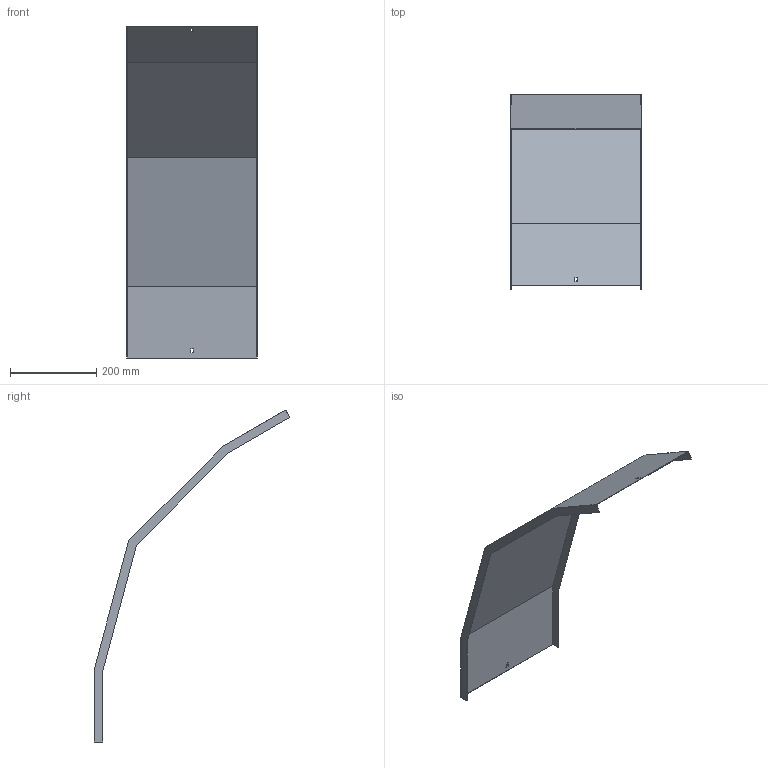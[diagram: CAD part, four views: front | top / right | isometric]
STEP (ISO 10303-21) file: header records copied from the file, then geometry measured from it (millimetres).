
FILE_DESCRIPTION (( 'STEP AP214' ), '1' );
FILE_NAME ('41N5J300.step', '2025-02-21T10:38:39', ( '' ), ( '' ), 'SwSTEP 2.0', 'SolidWorks 2023', '' );
FILE_SCHEMA (( 'AUTOMOTIVE_DESIGN' ));
Length unit declared in the file: millimetre
Products named in the file (1): 41N5J300
Bounding box: 303 x 454.7 x 770.25 mm (x, y, z)
Volume: 486006 mm3; surface area: 651925.4 mm2
Topology: 1 solids, 1 shells, 30 faces, 84 edges, 56 vertices
Faces by surface type: plane 30
Entity records: 979 total; most frequent: CARTESIAN_POINT 171, ORIENTED_EDGE 168, DIRECTION 146, EDGE_CURVE 84, LINE 84, VECTOR 84, VERTEX_POINT 56, EDGE_LOOP 34
